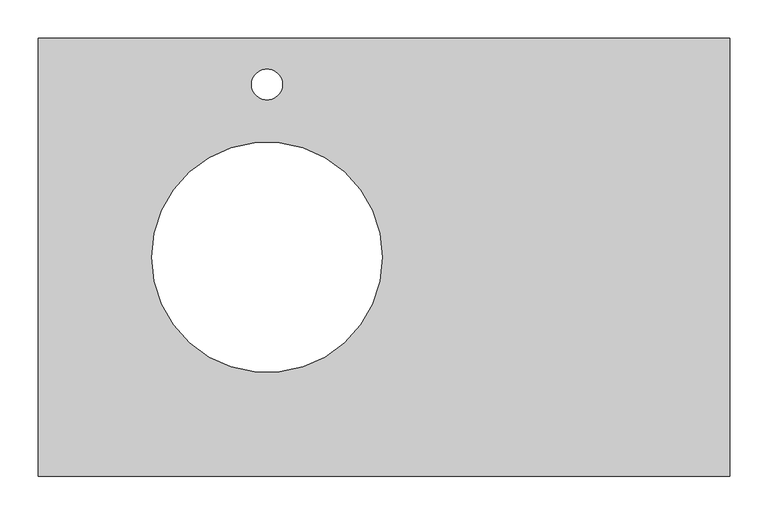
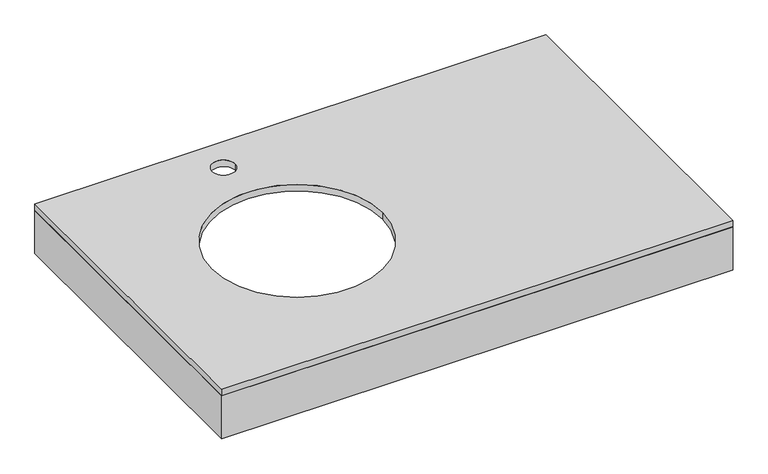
"""IFC4 building model written with IfcOpenShell, lengths in millimetres: furniture geometry, P01 Mesada Silestone 1 bacha : P01 Mesada Silestone 1 bacha."""

import ifcopenshell
import ifcopenshell.guid

model = None  # the IFC model being written
_history = None  # IfcOwnerHistory: only IFC2X3 demands one
_inside = {}  # id of a spatial element -> (the spatial element, [elements in it])
_under = {}  # id of a project, library or spatial element -> (it, [spatial elements below it])
_declared = {}  # id of a project -> (the project, [libraries it declares])
_typed = {}  # id of a type object -> (the type object, [elements of that type])
_made_of = {}  # id of a material, layer set ... -> (it, [elements and type objects made of it])


def new_model(schema):
    """Start an empty IFC model of exactly this schema.

    Asked for "IFC4X3", IfcOpenShell would pick the latest addendum, in which some entities
    have other attributes; the version numbers below select the first issue.
    IFC2X3 requires an IfcOwnerHistory on every rooted entity: one is made here for all.
    """
    global model, _history
    if schema == "IFC4X3":
        model = ifcopenshell.file(schema_version=(4, 3, 0, 0))
    else:
        model = ifcopenshell.file(schema=schema)
    _inside.clear()
    _under.clear()
    _declared.clear()
    _typed.clear()
    _made_of.clear()
    _history = None
    if model.schema == "IFC2X3":
        org = make("IfcOrganization", Name="unknown")
        user = make(
            "IfcPersonAndOrganization",
            ThePerson=make("IfcPerson", FamilyName="unknown"),
            TheOrganization=org,
        )
        app = make(
            "IfcApplication",
            ApplicationDeveloper=org,
            Version="unknown",
            ApplicationFullName="unknown",
            ApplicationIdentifier="unknown",
        )
        _history = make(
            "IfcOwnerHistory",
            OwningUser=user,
            OwningApplication=app,
            ChangeAction="ADDED",
            CreationDate=0,
        )
    return model


def make(cls, **values):
    """One entity of the class cls with the attributes given. An attribute that is None is left unset."""
    return model.create_entity(
        cls, **{name: value for name, value in values.items() if value is not None}
    )


def rooted(cls, **values):
    """An entity with a GlobalId (a new one), such as an element, a storey or a relation."""
    return make(cls, GlobalId=ifcopenshell.guid.new(), OwnerHistory=_history, **values)


def si_unit(unit_type, name, prefix=None):
    """IfcSIUnit, for example si_unit("LENGTHUNIT", "METRE", prefix="MILLI")."""
    return make("IfcSIUnit", UnitType=unit_type, Prefix=prefix, Name=name)


def assignment(units):
    """IfcUnitAssignment: the units of a project."""
    return None if units is None else make("IfcUnitAssignment", Units=units)


def point(xyz):
    """IfcCartesianPoint."""
    return None if xyz is None else make("IfcCartesianPoint", Coordinates=xyz)


def direction(xyz):
    """IfcDirection."""
    return None if xyz is None else make("IfcDirection", DirectionRatios=xyz)


def frame(location, z_axis=None, x_axis=None):
    """IfcAxis2Placement3D, a coordinate frame: its origin and axes. An axis left out is left unset."""
    return make(
        "IfcAxis2Placement3D",
        Location=point(location),
        Axis=direction(z_axis),
        RefDirection=direction(x_axis),
    )


def frame_2d(location, x_axis=None):
    """IfcAxis2Placement2D, a coordinate frame in the plane: its origin and x axis."""
    return make(
        "IfcAxis2Placement2D", Location=point(location), RefDirection=direction(x_axis)
    )


def origin():
    """The frame at (0, 0, 0) with its axes left unset."""
    return frame((0.0, 0.0, 0.0))


def place(relative_to, where):
    """IfcLocalPlacement: puts the frame where relative to a parent placement (None: the world)."""
    return make(
        "IfcLocalPlacement", PlacementRelTo=relative_to, RelativePlacement=where
    )


def context(
    kind, dimensions, precision=None, world=None, true_north=None, identifier=None
):
    """IfcGeometricRepresentationContext, for example the 3D "Model" context."""
    return make(
        "IfcGeometricRepresentationContext",
        ContextIdentifier=identifier,
        ContextType=kind,
        CoordinateSpaceDimension=dimensions,
        Precision=precision,
        WorldCoordinateSystem=world,
        TrueNorth=true_north,
    )


def project(units=None, contexts=None):
    """IfcProject with its units and contexts."""
    return rooted(
        "IfcProject",
        Name="project",
        RepresentationContexts=contexts,
        UnitsInContext=assignment(units),
    )


def spatial(cls, under=None, at=None, **own):
    """A site, building, storey or space (cls), placed at a placement, below another one or the project."""
    s = rooted(cls, ObjectPlacement=at, **own)
    if under is not None:
        _under.setdefault(under.id(), (under, []))[1].append(s)
    return s


def polyline(points):
    """IfcPolyline through the points."""
    return make("IfcPolyline", Points=[point(p) for p in points])


def circle_curve(where, radius):
    """IfcCircle in the frame where."""
    return make("IfcCircle", Position=where, Radius=radius)


def trimmed(basis, trim1, trim2, sense, master):
    """IfcTrimmedCurve: the piece of a basis curve between two trims."""
    return make(
        "IfcTrimmedCurve",
        BasisCurve=basis,
        Trim1=trim1,
        Trim2=trim2,
        SenseAgreement=sense,
        MasterRepresentation=master,
    )


def segment(curve, same_sense, transition):
    """IfcCompositeCurveSegment."""
    return make(
        "IfcCompositeCurveSegment",
        Transition=transition,
        SameSense=same_sense,
        ParentCurve=curve,
    )


def composite_curve(segments, self_intersect=None):
    """IfcCompositeCurve: segments joined end to end."""
    return make("IfcCompositeCurve", Segments=segments, SelfIntersect=self_intersect)


def outline(outer, holes=None, kind="AREA"):
    """IfcArbitraryClosedProfileDef: a profile drawn as a closed curve; with holes, ...WithVoids."""
    if holes is None:
        return make("IfcArbitraryClosedProfileDef", ProfileType=kind, OuterCurve=outer)
    return make(
        "IfcArbitraryProfileDefWithVoids",
        ProfileType=kind,
        OuterCurve=outer,
        InnerCurves=holes,
    )


def extrude(swept, where, along, depth):
    """IfcExtrudedAreaSolid: the profile swept, set in the frame where, extruded along a direction by depth."""
    return make(
        "IfcExtrudedAreaSolid",
        SweptArea=swept,
        Position=where,
        ExtrudedDirection=direction(along),
        Depth=depth,
    )


def shape(context_of_items, identifier, shape_type, items):
    """IfcShapeRepresentation: the items that make up one representation, for example the "Body"."""
    return make(
        "IfcShapeRepresentation",
        ContextOfItems=context_of_items,
        RepresentationIdentifier=identifier,
        RepresentationType=shape_type,
        Items=items,
    )


def source(mapping_origin, context_of_items, identifier, shape_type, items):
    """IfcRepresentationMap: a shape defined once, which mapped items show again and again."""
    return make(
        "IfcRepresentationMap",
        MappingOrigin=mapping_origin,
        MappedRepresentation=shape(context_of_items, identifier, shape_type, items),
    )


def transform(
    local_origin,
    x_axis=None,
    y_axis=None,
    z_axis=None,
    scale=None,
    scale2=None,
    scale3=None,
    uniform=True,
):
    """IfcCartesianTransformationOperator3D, or its non-uniform kind. x_axis, y_axis, z_axis: its Axis1, 2, 3."""
    if uniform:
        return make(
            "IfcCartesianTransformationOperator3D",
            Axis1=direction(x_axis),
            Axis2=direction(y_axis),
            LocalOrigin=point(local_origin),
            Scale=scale,
            Axis3=direction(z_axis),
        )
    return make(
        "IfcCartesianTransformationOperator3DnonUniform",
        Axis1=direction(x_axis),
        Axis2=direction(y_axis),
        LocalOrigin=point(local_origin),
        Scale=scale,
        Axis3=direction(z_axis),
        Scale2=scale2,
        Scale3=scale3,
    )


def mapped(mapping_source, mapping_target):
    """IfcMappedItem: shows the shape of a source again, moved by a transform."""
    return make(
        "IfcMappedItem", MappingSource=mapping_source, MappingTarget=mapping_target
    )


def made_of(thing, what):
    """Note that an element or type object is made of a material, layer set ...; save() writes the relation."""
    if what is not None:
        _made_of.setdefault(what.id(), (what, []))[1].append(thing)
    return thing


def element(
    cls,
    number,
    at=None,
    inside=None,
    cuts=None,
    type_object=None,
    material=None,
    context=None,
    identifier="Body",
    shape_type=None,
    held_by="IfcProductDefinitionShape",
    body=None,
    shapes=None,
    **own,
):
    """One element of the class cls, such as IfcWall. Its Tag is "e" and its number.

    at: its placement. inside: the storey or other place that contains it. cuts: it is an
    opening in that element (IfcRelVoidsElement). A single representation is given by context,
    identifier, shape_type and body (its items); several are given by shapes. held_by: the class
    of the entity that holds the representations. save() writes the other relations.
    """
    e = rooted(cls, Tag="e%d" % number, ObjectPlacement=at, **own)
    if body is not None:
        shapes = [shape(context, identifier, shape_type, body)]
    if shapes is not None:
        e.Representation = make(held_by, Representations=shapes)
    if inside is not None:
        _inside.setdefault(inside.id(), (inside, []))[1].append(e)
    if cuts is not None:
        rooted(
            "IfcRelVoidsElement", RelatingBuildingElement=cuts, RelatedOpeningElement=e
        )
    if type_object is not None:
        _typed.setdefault(type_object.id(), (type_object, []))[1].append(e)
    return made_of(e, material)


def aggregate(whole, parts):
    """IfcRelAggregates: a whole, such as a stair, and the parts it consists of."""
    return rooted("IfcRelAggregates", RelatingObject=whole, RelatedObjects=parts)


def save(model, path):
    """Write the relations noted so far, then the file.

    IfcRelAggregates (storeys below a building ...), IfcRelContainedInSpatialStructure (elements
    in a storey), IfcRelDefinesByType, IfcRelAssociatesMaterial and IfcRelDeclares: one each for
    every whole, place, type object, material and project.
    """
    for whole, parts in _under.values():
        aggregate(whole, parts)
    for where, things in _inside.values():
        rooted(
            "IfcRelContainedInSpatialStructure",
            RelatedElements=things,
            RelatingStructure=where,
        )
    for kind, things in _typed.values():
        rooted("IfcRelDefinesByType", RelatedObjects=things, RelatingType=kind)
    for what, things in _made_of.values():
        rooted("IfcRelAssociatesMaterial", RelatedObjects=things, RelatingMaterial=what)
    for by, libraries in _declared.values():
        rooted("IfcRelDeclares", RelatingContext=by, RelatedDefinitions=libraries)
    model.write(path)


def furniture_d5f9400a(model_context):
    return source(origin(), model_context, "Body", "SweptSolid", [
        extrude(outline(polyline([(-1155.2996736, -570.0), (-1155.2996736, 0.0), (-1143.2996736, 0.0), (-1143.2996736, -558.0), (-267.2996736, -558.0), (-267.2996736, 0.0), (-255.2996736, 0.0), (-255.2996736, -570.0), (-1155.2996736, -570.0)])), frame((0.0, 0.0, -92.0), z_axis=(0.0, 0.0, 1.0), x_axis=(1.0, 0.0, 0.0)), (0.0, 0.0, 1.0), 80.0),
        extrude(outline(polyline([(-255.2996736, -570.0), (-1155.2996736, -570.0), (-1155.2996736, 0.0), (-255.2996736, 0.0), (-255.2996736, -570.0)]), holes=[composite_curve([segment(trimmed(circle_curve(frame_2d((-857.6653694, -285.0)), 150.0), [point((-1007.6653694, -285.0))], [point((-707.6653694, -285.0))], True, "CARTESIAN"), True, "CONTINUOUS"), segment(trimmed(circle_curve(frame_2d((-857.6653694, -285.0)), 150.0), [point((-707.6653694, -285.0))], [point((-1007.6653694, -285.0))], True, "CARTESIAN"), True, "CONTINUOUS")], self_intersect=False), composite_curve([segment(trimmed(circle_curve(frame_2d((-857.6653694, -60.0)), 20.0), [point((-877.6653694, -60.0))], [point((-837.6653694, -60.0))], True, "CARTESIAN"), True, "CONTINUOUS"), segment(trimmed(circle_curve(frame_2d((-857.6653694, -60.0)), 20.0), [point((-837.6653694, -60.0))], [point((-877.6653694, -60.0))], True, "CARTESIAN"), True, "CONTINUOUS")], self_intersect=False)]), frame((0.0, 0.0, -12.0), z_axis=(0.0, 0.0, 1.0), x_axis=(1.0, 0.0, 0.0)), (0.0, 0.0, 1.0), 12.0),
    ])


if __name__ == "__main__":
    model = new_model("IFC4")
    model_context = context("Model", 3, world=origin())
    ifc_project = project(units=[si_unit("LENGTHUNIT", "METRE", prefix="MILLI")], contexts=[model_context])
    site = spatial("IfcSite", under=ifc_project)
    building = spatial("IfcBuilding", under=site)
    placement = place(None, origin())
    furniture_shape = furniture_d5f9400a(model_context)
    element("IfcFurniture", 1, ObjectType="P01 Mesada Silestone 1 bacha : P01 Mesada Silestone 1 bacha", at=placement, inside=building, context=model_context, shape_type="MappedRepresentation", body=[
        mapped(furniture_shape, transform((0.0, 0.0, 0.0), x_axis=(1.0, 0.0, 0.0), y_axis=(0.0, 1.0, 0.0), z_axis=(0.0, 0.0, 1.0))),
    ])
    save(model, "model.ifc")
